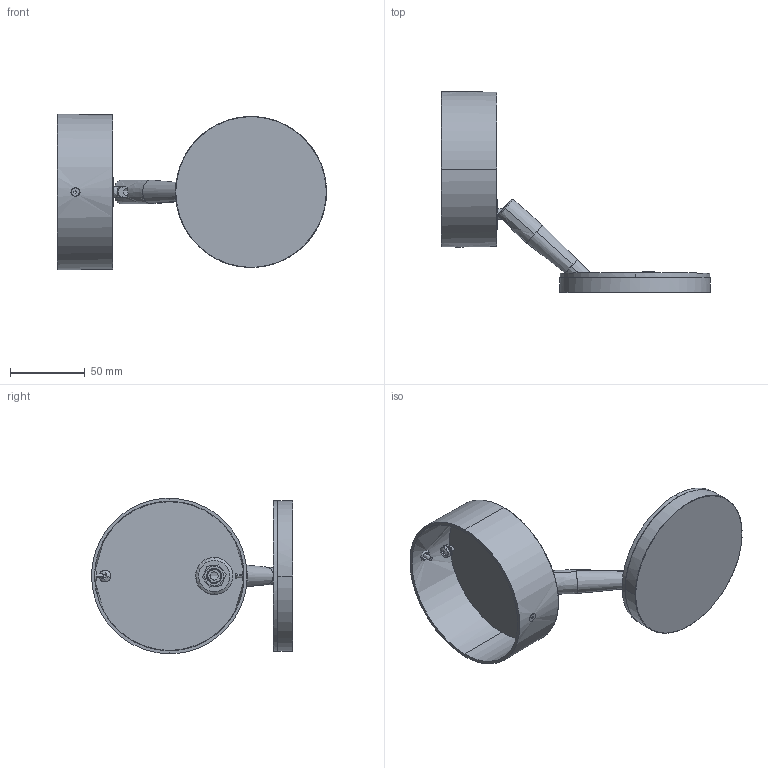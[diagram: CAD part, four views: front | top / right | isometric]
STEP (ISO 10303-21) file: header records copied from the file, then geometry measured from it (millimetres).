
FILE_DESCRIPTION(/* description */ (''),/* implementation_level */ '2;1');
FILE_NAME(/* name */ 'A052__~2',/* time_stamp */ '2024-07-04T16:21:00+02:00',/* author */ (''),/* organization */ (''),/* preprocessor_version */ 'ST-DEVELOPER v16.5',/* originating_system */ '',/* authorisation */ '');
FILE_SCHEMA (('AUTOMOTIVE_DESIGN'));
Length unit declared in the file: millimetre
Products named in the file (1): Document
Bounding box: 179.92 x 134.53 x 104 mm (x, y, z)
Volume: 66647.4 mm3; surface area: 97102.2 mm2
Topology: 20 solids, 22 shells, 920 faces, 2275 edges, 1363 vertices
Faces by surface type: bspline 690, plane 230
Entity records: 46286 total; most frequent: CARTESIAN_POINT 33297, ORIENTED_EDGE 4438, EDGE_CURVE 2225, VERTEX_POINT 1363, B_SPLINE_CURVE_WITH_KNOTS 1253, EDGE_LOOP 978, ADVANCED_FACE 920, FACE_OUTER_BOUND 920
